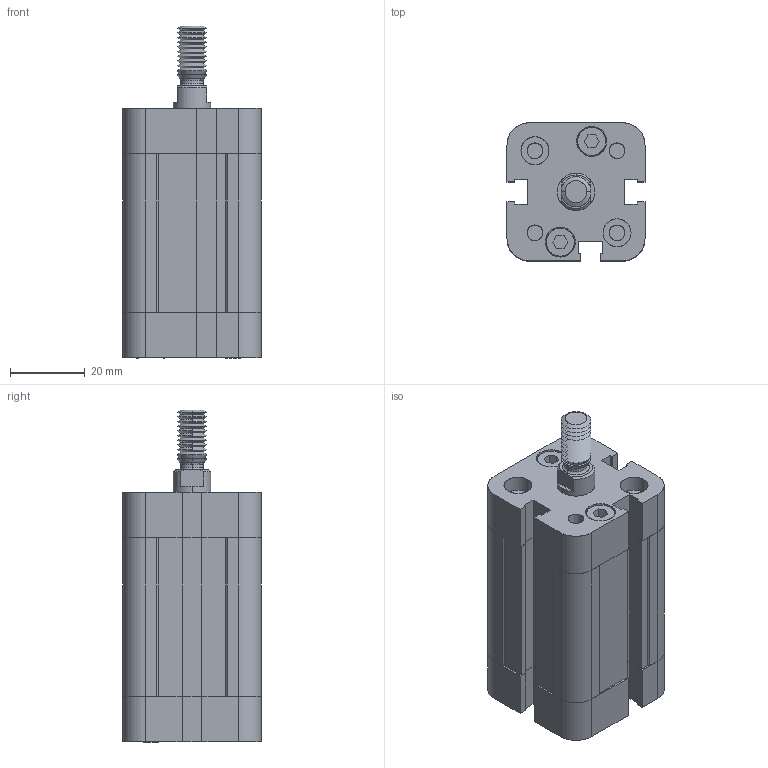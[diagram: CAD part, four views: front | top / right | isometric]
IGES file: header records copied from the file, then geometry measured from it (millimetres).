
Start section: SolidWorks IGES file using analytic representation for surfaces
Global section: file name: c:\CATALO3D\IGS\NSKI020.0030 M.IGS; native system: SolidWorks 2009; preprocessor: SolidWorks 2009; author: utente16; date: 100604.152700; units: millimetre
Bounding box: 37 x 37 x 89 mm (x, y, z)
Surface area: 29881.3 mm2 (no closed solid volume)
Topology: 0 solids, 0 shells, 522 faces, 10143 edges, 12739 vertices
Faces by surface type: bspline 292, revolution 230
